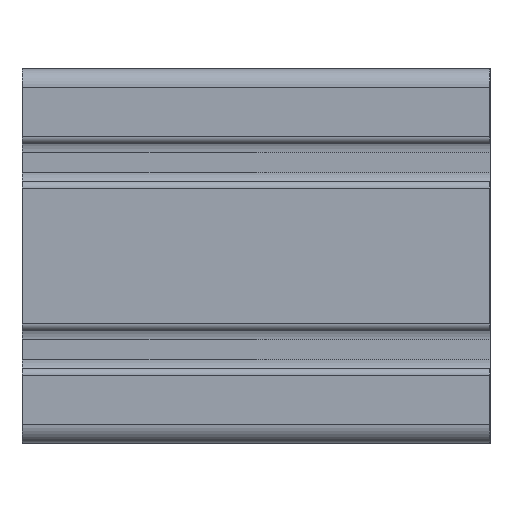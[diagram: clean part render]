
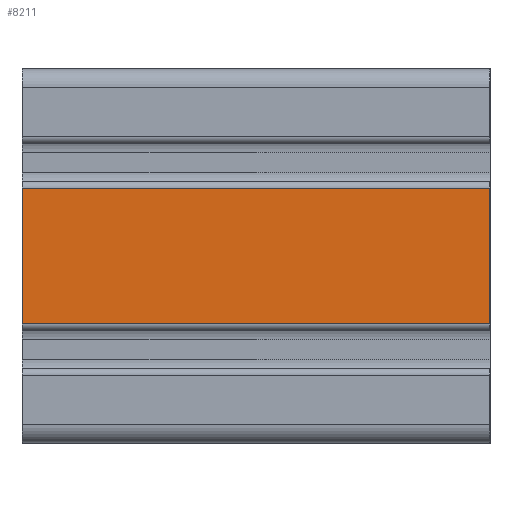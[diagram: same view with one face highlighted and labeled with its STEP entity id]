
A CAD part, left-side view. The second image highlights one B-rep face of the part: STEP entity #8211.
In plain terms, the highlighted planar face has unit normal (-1, 0, 0).
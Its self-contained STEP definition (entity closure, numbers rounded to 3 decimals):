
#91 = CARTESIAN_POINT ( 'NONE',  ( -60., -50., -14.5 ) ) ;
#299 = DIRECTION ( 'NONE',  ( 0., 0., 1. ) ) ;
#1201 = EDGE_LOOP ( 'NONE', ( #2339, #5702, #4355, #6139 ) ) ;
#2144 = VERTEX_POINT ( 'NONE', #6343 ) ;
#2339 = ORIENTED_EDGE ( 'NONE', *, *, #6455, .T. ) ;
#2409 = FACE_OUTER_BOUND ( 'NONE', #1201, .T. ) ;
#2551 = DIRECTION ( 'NONE',  ( 0., -1., 0. ) ) ;
#2580 = AXIS2_PLACEMENT_3D ( 'NONE', #8006, #4855, #7572 ) ;
#2751 = CARTESIAN_POINT ( 'NONE',  ( -60., 50., 14.5 ) ) ;
#3277 = LINE ( 'NONE', #6108, #4681 ) ;
#3795 = EDGE_CURVE ( 'NONE', #2144, #6902, #3277, .T. ) ;
#3865 = VECTOR ( 'NONE', #299, 1000. ) ;
#4307 = DIRECTION ( 'NONE',  ( 0., 0., 1. ) ) ;
#4355 = ORIENTED_EDGE ( 'NONE', *, *, #5500, .F. ) ;
#4377 = LINE ( 'NONE', #6590, #3865 ) ;
#4552 = VECTOR ( 'NONE', #4307, 1000. ) ;
#4632 = CARTESIAN_POINT ( 'NONE',  ( -60., -50., -14.5 ) ) ;
#4681 = VECTOR ( 'NONE', #2551, 1000. ) ;
#4855 = DIRECTION ( 'NONE',  ( 1., 0., 0. ) ) ;
#4955 = VERTEX_POINT ( 'NONE', #8342 ) ;
#5193 = PLANE ( 'NONE',  #2580 ) ;
#5500 = EDGE_CURVE ( 'NONE', #2144, #4955, #4377, .T. ) ;
#5632 = LINE ( 'NONE', #2751, #6022 ) ;
#5702 = ORIENTED_EDGE ( 'NONE', *, *, #6839, .F. ) ;
#6022 = VECTOR ( 'NONE', #7702, 1000. ) ;
#6108 = CARTESIAN_POINT ( 'NONE',  ( -60., 50., -14.5 ) ) ;
#6139 = ORIENTED_EDGE ( 'NONE', *, *, #3795, .T. ) ;
#6343 = CARTESIAN_POINT ( 'NONE',  ( -60., 50., -14.5 ) ) ;
#6455 = EDGE_CURVE ( 'NONE', #6902, #7924, #7067, .T. ) ;
#6590 = CARTESIAN_POINT ( 'NONE',  ( -60., 50., -14.5 ) ) ;
#6769 = CARTESIAN_POINT ( 'NONE',  ( -60., -50., 14.5 ) ) ;
#6839 = EDGE_CURVE ( 'NONE', #4955, #7924, #5632, .T. ) ;
#6902 = VERTEX_POINT ( 'NONE', #4632 ) ;
#7067 = LINE ( 'NONE', #91, #4552 ) ;
#7572 = DIRECTION ( 'NONE',  ( 0., 0., -1. ) ) ;
#7702 = DIRECTION ( 'NONE',  ( 0., -1., 0. ) ) ;
#7924 = VERTEX_POINT ( 'NONE', #6769 ) ;
#8006 = CARTESIAN_POINT ( 'NONE',  ( -60., 50., -14.5 ) ) ;
#8211 = ADVANCED_FACE ( 'NONE', ( #2409 ), #5193, .F. ) ;
#8342 = CARTESIAN_POINT ( 'NONE',  ( -60., 50., 14.5 ) ) ;
